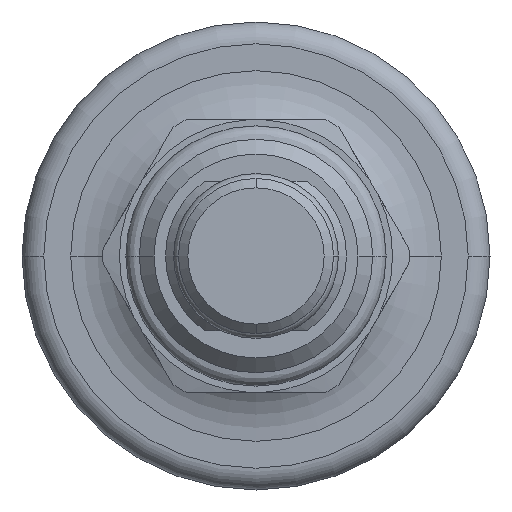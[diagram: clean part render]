
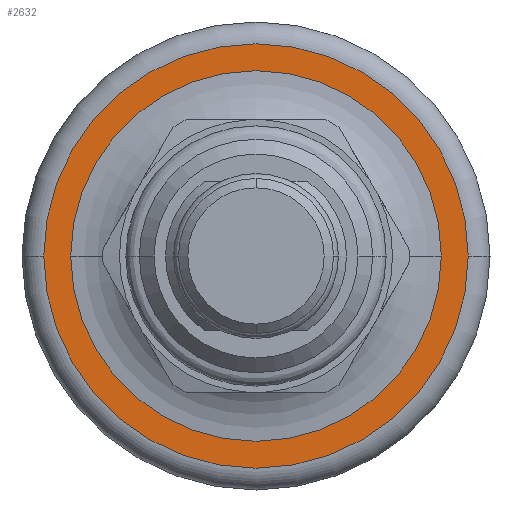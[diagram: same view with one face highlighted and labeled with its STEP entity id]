
A CAD part, front view. The second image highlights one B-rep face of the part: STEP entity #2632.
In plain terms, the highlighted planar face has unit normal (0, -1, 0).
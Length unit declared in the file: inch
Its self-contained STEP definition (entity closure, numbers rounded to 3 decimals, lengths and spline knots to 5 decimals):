
#1147=CARTESIAN_POINT('',(0.,1.476,0.));
#1148=DIRECTION('',(0.,1.,0.));
#1149=DIRECTION('',(1.,0.,0.));
#1150=AXIS2_PLACEMENT_3D('',#1147,#1148,#1149);
#1152=CARTESIAN_POINT('',(0.,1.476,0.));
#1153=DIRECTION('',(0.,-1.,0.));
#1154=DIRECTION('',(1.,0.,0.));
#1155=AXIS2_PLACEMENT_3D('',#1152,#1153,#1154);
#1157=CARTESIAN_POINT('',(0.,1.476,0.));
#1158=DIRECTION('',(0.,-1.,0.));
#1159=DIRECTION('',(1.,0.,0.));
#1160=AXIS2_PLACEMENT_3D('',#1157,#1158,#1159);
#1172=CARTESIAN_POINT('',(0.,1.476,0.));
#1173=DIRECTION('',(0.,1.,0.));
#1174=DIRECTION('',(1.,0.,0.));
#1175=AXIS2_PLACEMENT_3D('',#1172,#1173,#1174);
#1407=CARTESIAN_POINT('',(0.59375,1.476,0.));
#1408=VERTEX_POINT('',#1407);
#1409=CARTESIAN_POINT('',(0.68,1.476,0.));
#1411=VERTEX_POINT('',#1409);
#1419=CARTESIAN_POINT('',(-0.59375,1.476,0.));
#1420=VERTEX_POINT('',#1419);
#1421=CARTESIAN_POINT('',(-0.68,1.476,0.));
#1423=VERTEX_POINT('',#1421);
#2617=CARTESIAN_POINT('',(0.,1.476,0.));
#2618=DIRECTION('',(0.,-1.,0.));
#2619=DIRECTION('',(-1.,0.,0.));
#2620=AXIS2_PLACEMENT_3D('',#2617,#2618,#2619);
#2621=PLANE('',#2620);
#2623=ORIENTED_EDGE('',*,*,#2622,.F.);
#2625=ORIENTED_EDGE('',*,*,#2624,.T.);
#2626=EDGE_LOOP('',(#2623,#2625));
#2627=FACE_OUTER_BOUND('',#2626,.F.);
#2628=ORIENTED_EDGE('',*,*,#2610,.F.);
#2629=ORIENTED_EDGE('',*,*,#2599,.T.);
#2630=EDGE_LOOP('',(#2628,#2629));
#2631=FACE_BOUND('',#2630,.F.);
#2632=ADVANCED_FACE('',(#2627,#2631),#2621,.T.);
#1151=CIRCLE('',#1150,0.59375);
#1156=CIRCLE('',#1155,0.59375);
#1161=CIRCLE('',#1160,0.68);
#1176=CIRCLE('',#1175,0.68);
#2599=EDGE_CURVE('',#1408,#1420,#1156,.T.);
#2610=EDGE_CURVE('',#1408,#1420,#1151,.T.);
#2622=EDGE_CURVE('',#1411,#1423,#1161,.T.);
#2624=EDGE_CURVE('',#1411,#1423,#1176,.T.);
